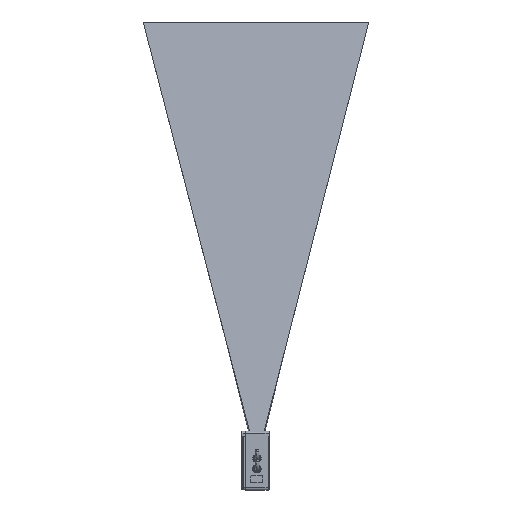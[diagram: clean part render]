
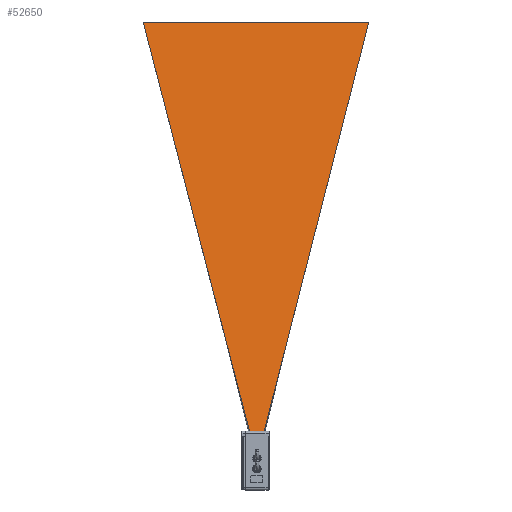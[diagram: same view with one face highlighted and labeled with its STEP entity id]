
A CAD part, left-side view. The second image highlights one B-rep face of the part: STEP entity #52650.
In plain terms, the highlighted planar face has unit normal (0.99, 0, -0.143).
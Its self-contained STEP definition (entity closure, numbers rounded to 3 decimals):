
#52529=DIRECTION('',(0.139,-0.245,0.959));
#52530=VECTOR('',#52529,916.986);
#52531=CARTESIAN_POINT('',(76.656,224.96,-879.796));
#52532=LINE('',#52531,#52530);
#52533=DIRECTION('',(0.,1.,0.));
#52534=VECTOR('',#52533,482.);
#52535=CARTESIAN_POINT('',(204.,0.,0.));
#52536=LINE('',#52535,#52534);
#52537=DIRECTION('',(-0.139,-0.249,-0.959));
#52538=VECTOR('',#52537,917.846);
#52539=CARTESIAN_POINT('',(204.,482.,0.));
#52540=LINE('',#52539,#52538);
#52541=DIRECTION('',(0.,-1.,0.));
#52542=VECTOR('',#52541,28.6);
#52543=CARTESIAN_POINT('',(76.656,253.56,-879.796));
#52544=LINE('',#52543,#52542);
#52553=CARTESIAN_POINT('',(76.656,253.56,-879.796));
#52554=VERTEX_POINT('',#52553);
#52555=CARTESIAN_POINT('',(76.656,224.96,-879.796));
#52556=VERTEX_POINT('',#52555);
#52561=CARTESIAN_POINT('',(204.,482.,0.));
#52562=VERTEX_POINT('',#52561);
#52563=CARTESIAN_POINT('',(204.,0.,0.));
#52564=VERTEX_POINT('',#52563);
#52637=CARTESIAN_POINT('',(140.328,241.,-439.898));
#52638=DIRECTION('',(0.99,0.,-0.143));
#52639=DIRECTION('',(0.,1.,0.));
#52640=AXIS2_PLACEMENT_3D('',#52637,#52638,#52639);
#52641=PLANE('',#52640);
#52643=ORIENTED_EDGE('',*,*,#52642,.T.);
#52644=ORIENTED_EDGE('',*,*,#52574,.T.);
#52645=ORIENTED_EDGE('',*,*,#52628,.T.);
#52647=ORIENTED_EDGE('',*,*,#52646,.T.);
#52648=EDGE_LOOP('',(#52643,#52644,#52645,#52647));
#52649=FACE_OUTER_BOUND('',#52648,.F.);
#52574=EDGE_CURVE('',#52564,#52562,#52536,.T.);
#52628=EDGE_CURVE('',#52562,#52554,#52540,.T.);
#52642=EDGE_CURVE('',#52556,#52564,#52532,.T.);
#52646=EDGE_CURVE('',#52554,#52556,#52544,.T.);
#52650=ADVANCED_FACE('',(#52649),#52641,.T.);
